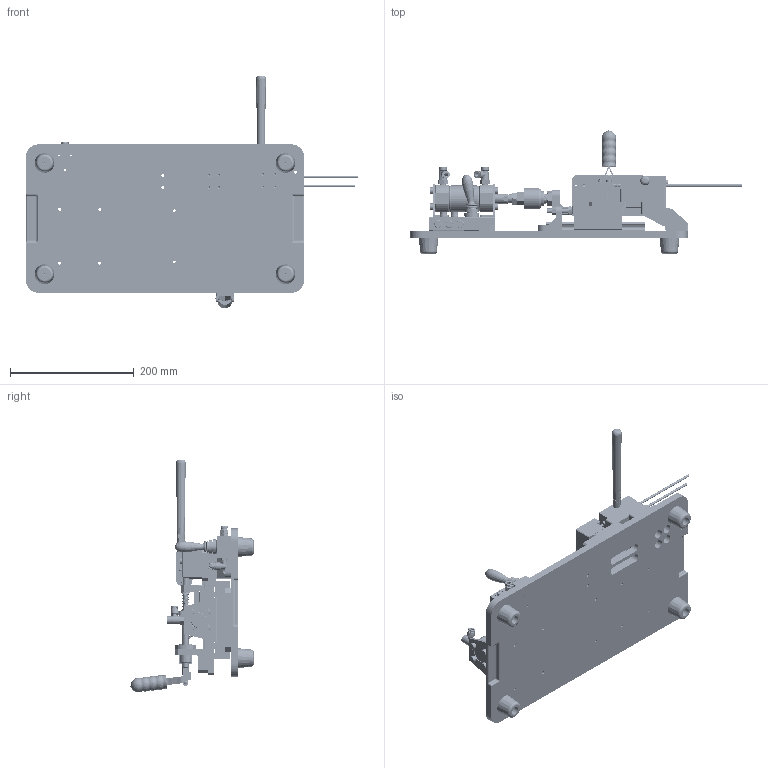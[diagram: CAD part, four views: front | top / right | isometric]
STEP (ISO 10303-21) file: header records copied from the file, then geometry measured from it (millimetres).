
FILE_DESCRIPTION (( 'STEP AP214' ), '1' );
FILE_NAME ('GZ29.00_V1进口速降阀插管工装.STEP', '2021-05-08T06:32:08', ( '微软中国' ), ( 'Microsoft' ), 'SwSTEP 2.0', 'SolidWorks 2017', '' );
FILE_SCHEMA (( 'AUTOMOTIVE_DESIGN' ));
Length unit declared in the file: millimetre
Products named in the file (51): PC601; 輛諳厒蔥概; 菁釱-V02; BSLM01; 隅弇輸; 揤蚾賑痄啣; 4H21006; SFJC10-80-M6-SC4_SFJC10-80-M6-SC4; 階輸; GZ29.00_V1进口速降阀插管工装; LHFC10_LHFC10; ァ詰菜輸; 紵標假蚾釱; ECRKC3225_ECRKC3225; MC02_2_MC02-2; ァ詰蟀諉輸; c_MC02_2; 菁啣; p_MC02_2; PTL601A; s_MC02_2; F-M14X150F; nut_MC02_2; MGC40X15SLB_葩弇; GB／T70．2-2000内六角平圆头螺钉M6×12; b_MC02_2; HGH20CA絳寢-001; GB／T93-1987标准型弹性垫圈(装配)6×1．6; VUF10-40; HGH20CA賑輸; GB／T97．1-2002平垫圈A级6×1．6; GB／T97．1-2002平垫圈A级8×1．6; 脣奪郪璃; GB／T5781-2000六角头螺栓全螺纹C级M8×35; 粟銅痄雄啣; 忒梟; GB／T6170-20001型六角螺母A级和B级M8; MGW12C絳寢; 耳4ァ奪; ァ詰癹弇釱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
Assembly tree (69 placements, depth 3):
  GZ29.00_V1进口速降阀插管工装
    隅弇輸
    輛諳厒蔥概
    厒蔥概隅弇杶芠
    絳砃輸
    MGW12C賑輸
    粟銅粣  x2
    MGW12C絳寢
    粟銅痄雄啣
    GB／T97．1-2002平垫圈A级8×1．6  x4
    VUF10-40  x2
    MC02_2_MC02-2
      b_MC02_2
      nut_MC02_2
      s_MC02_2
      p_MC02_2
      c_MC02_2
    紵標假蚾釱
    LHFC10_LHFC10  x2
    SFJC10-80-M6-SC4_SFJC10-80-M6-SC4  x2
    揤蚾賑痄啣
    脣奪郪璃
      菁釱-V02
      賑雄菁釱
      狟揤輸
      盓傅啣
      奻揤輸
      耳4ァ奪
      忒梟
    耳4ァ奪
    HGH20CA賑輸  x2
    HGH20CA絳寢-001  x2
    MGC40X15SLB_葩弇
    F-M14X150F
    PTL601A  x2
    菁啣
    ァ詰蟀諉輸
    ECRKC3225_ECRKC3225  x4
    ァ詰菜輸
    階輸
    4H21006
    BSLM01  x2
    PC601
    PL601  x2
    种粣
    盓傅輸
    ァ詰癹弇釱
    GB／T6170-20001型六角螺母A级和B级M8
    GB／T5781-2000六角头螺栓全螺纹C级M8×35
    GB／T97．1-2002平垫圈A级6×1．6  x2
    GB／T93-1987标准型弹性垫圈(装配)6×1．6  x2
    GB／T70．2-2000内六角平圆头螺钉M6×12  x2
Bounding box: 537.39 x 200 x 376.96 mm (x, y, z)
Volume: 2822394.9 mm3; surface area: 728253.7 mm2
Topology: 78 solids, 82 shells, 4205 faces, 10561 edges, 6737 vertices
Faces by surface type: plane 1863, cylinder 1346, cone 647, bspline 269, torus 58, sphere 22
Entity records: 147178 total; most frequent: CARTESIAN_POINT 38923, ORIENTED_EDGE 17952, DIRECTION 17666, EDGE_CURVE 8978, AXIS2_PLACEMENT_3D 6384, VERTEX_POINT 5784, LINE 4898, VECTOR 4898
